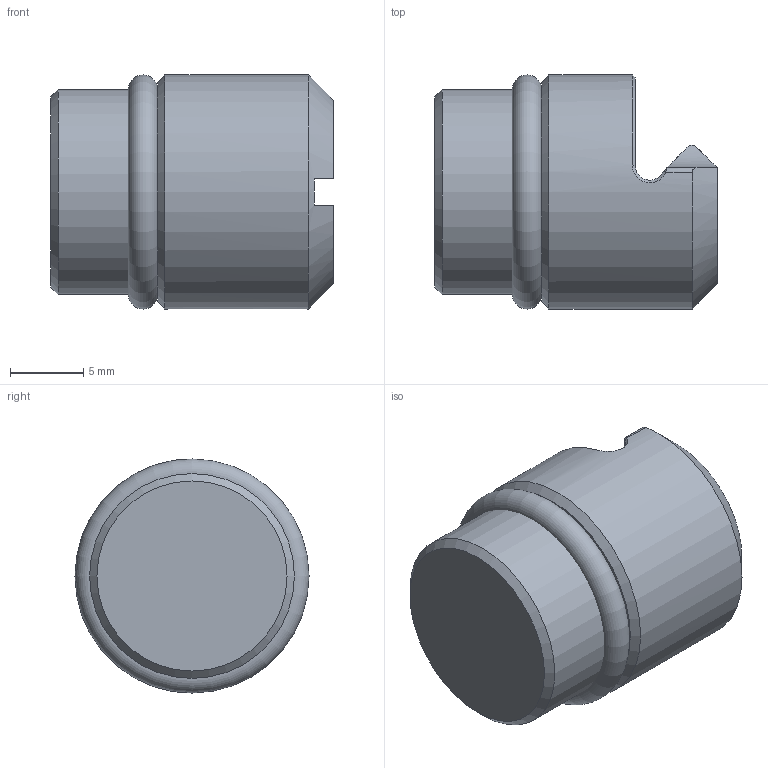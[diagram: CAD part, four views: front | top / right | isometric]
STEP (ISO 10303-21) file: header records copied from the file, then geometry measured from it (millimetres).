
FILE_DESCRIPTION (( 'STEP AP214' ), '1' );
FILE_NAME ('6921884036100.STEP', '2020-11-27T07:54:46', ( '' ), ( '' ), 'SwSTEP 2.0', 'SolidWorks 2018', '' );
FILE_SCHEMA (( 'AUTOMOTIVE_DESIGN' ));
Length unit declared in the file: millimetre
Products named in the file (1): 6921884036100
Bounding box: 19.3 x 16 x 16 mm (x, y, z)
Volume: 3118 mm3; surface area: 1587.5 mm2
Topology: 2 solids, 2 shells, 35 faces, 85 edges, 53 vertices
Faces by surface type: plane 15, cylinder 9, cone 5, bspline 4, torus 2
Full cylindrical faces by diameter (mm): 12 x1, 14 x1, 16 x1
Entity records: 1130 total; most frequent: CARTESIAN_POINT 365, ORIENTED_EDGE 148, DIRECTION 124, EDGE_CURVE 74, VERTEX_POINT 50, AXIS2_PLACEMENT_3D 47, EDGE_LOOP 42, FACE_OUTER_BOUND 38
